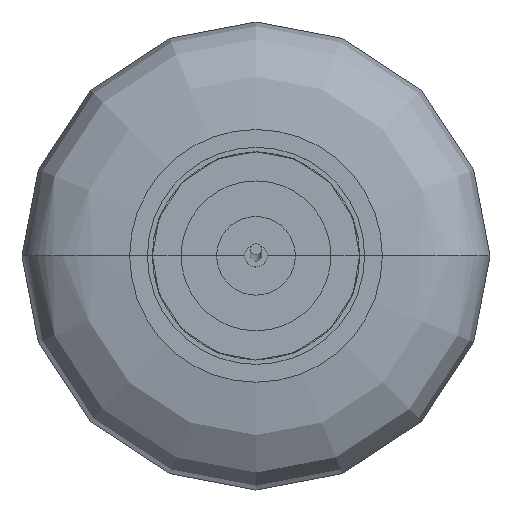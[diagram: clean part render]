
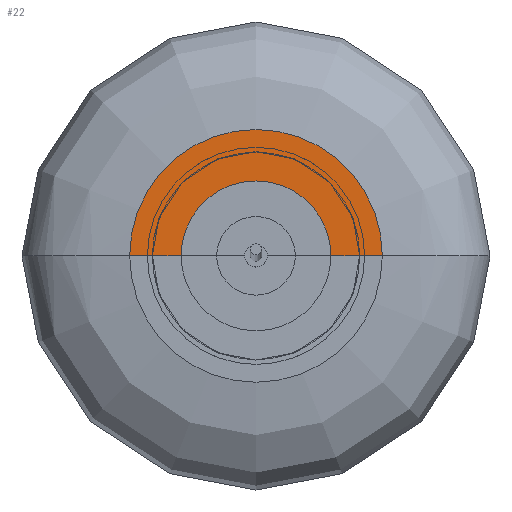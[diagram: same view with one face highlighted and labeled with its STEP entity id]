
A CAD part, top view. The second image highlights one B-rep face of the part: STEP entity #22.
In plain terms, the highlighted planar face has unit normal (0, 0, 1).
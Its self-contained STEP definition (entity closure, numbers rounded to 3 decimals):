
#22=ADVANCED_FACE('',(#47),#342,.T.);
#47=FACE_OUTER_BOUND('',#72,.T.);
#72=EDGE_LOOP('',(#115,#116,#117,#118));
#115=ORIENTED_EDGE('',*,*,#204,.F.);
#116=ORIENTED_EDGE('',*,*,#197,.T.);
#117=ORIENTED_EDGE('',*,*,#205,.T.);
#118=ORIENTED_EDGE('',*,*,#226,.F.);
#197=EDGE_CURVE('',#318,#317,#243,.T.);
#204=EDGE_CURVE('',#318,#332,#264,.T.);
#205=EDGE_CURVE('',#317,#333,#265,.T.);
#226=EDGE_CURVE('',#332,#333,#253,.T.);
#243=(
BOUNDED_CURVE()
B_SPLINE_CURVE(5,(#979,#980,#981,#982,#983,#984),.UNSPECIFIED.,.F.,.F.)
B_SPLINE_CURVE_WITH_KNOTS((6,6),(267.935,295.435),
 .UNSPECIFIED.)
CURVE()
GEOMETRIC_REPRESENTATION_ITEM()
RATIONAL_B_SPLINE_CURVE((1.,1.,1.,1.,1.,1.))
REPRESENTATION_ITEM('')
);
#253=(
BOUNDED_CURVE()
B_SPLINE_CURVE(5,(#1117,#1118,#1119,#1120,#1121,#1122),.UNSPECIFIED.,.F.,
 .F.)
B_SPLINE_CURVE_WITH_KNOTS((6,6),(267.935,295.435),
 .UNSPECIFIED.)
CURVE()
GEOMETRIC_REPRESENTATION_ITEM()
RATIONAL_B_SPLINE_CURVE((1.,1.,1.,1.,1.,1.))
REPRESENTATION_ITEM('')
);
#264=TRIMMED_CURVE($,#290,(#1013),(#1014),.T.,.CARTESIAN.);
#265=TRIMMED_CURVE($,#291,(#1016),(#1017),.T.,.CARTESIAN.);
#290=CIRCLE('',#479,67.498);
#291=CIRCLE('',#480,39.998);
#317=VERTEX_POINT('',#920);
#318=VERTEX_POINT('',#921);
#332=VERTEX_POINT('',#935);
#333=VERTEX_POINT('',#936);
#342=PLANE('',#457);
#457=AXIS2_PLACEMENT_3D('',#587,#509,$);
#479=AXIS2_PLACEMENT_3D($,#1012,#536,#537);
#480=AXIS2_PLACEMENT_3D($,#1015,#538,#539);
#509=DIRECTION('',(0.,0.,1.));
#536=DIRECTION('',(0.,0.,-1.));
#537=DIRECTION('',(-1.,0.,0.));
#538=DIRECTION('',(0.,0.,-1.));
#539=DIRECTION('',(-1.,0.,0.));
#587=CARTESIAN_POINT('',(-67.498,0.,-4.));
#920=CARTESIAN_POINT('',(-39.998,0.,-4.));
#921=CARTESIAN_POINT('',(-67.498,0.,-4.));
#935=CARTESIAN_POINT('',(67.498,0.,-4.));
#936=CARTESIAN_POINT('',(39.998,0.,-4.));
#979=CARTESIAN_POINT('',(-67.498,0.,-4.));
#980=CARTESIAN_POINT('',(-61.998,0.,-4.));
#981=CARTESIAN_POINT('',(-56.498,0.,-4.));
#982=CARTESIAN_POINT('',(-50.998,0.,-4.));
#983=CARTESIAN_POINT('',(-45.498,0.,-4.));
#984=CARTESIAN_POINT('',(-39.998,0.,-4.));
#1012=CARTESIAN_POINT('',(0.,0.,-4.));
#1013=CARTESIAN_POINT('',(-67.498,0.,-4.));
#1014=CARTESIAN_POINT('',(67.498,0.,-4.));
#1015=CARTESIAN_POINT('',(0.,0.,-4.));
#1016=CARTESIAN_POINT('',(-39.998,0.,-4.));
#1017=CARTESIAN_POINT('',(39.998,0.,-4.));
#1117=CARTESIAN_POINT('',(67.498,0.,-4.));
#1118=CARTESIAN_POINT('',(61.998,0.,-4.));
#1119=CARTESIAN_POINT('',(56.498,0.,-4.));
#1120=CARTESIAN_POINT('',(50.998,0.,-4.));
#1121=CARTESIAN_POINT('',(45.498,0.,-4.));
#1122=CARTESIAN_POINT('',(39.998,0.,-4.));
